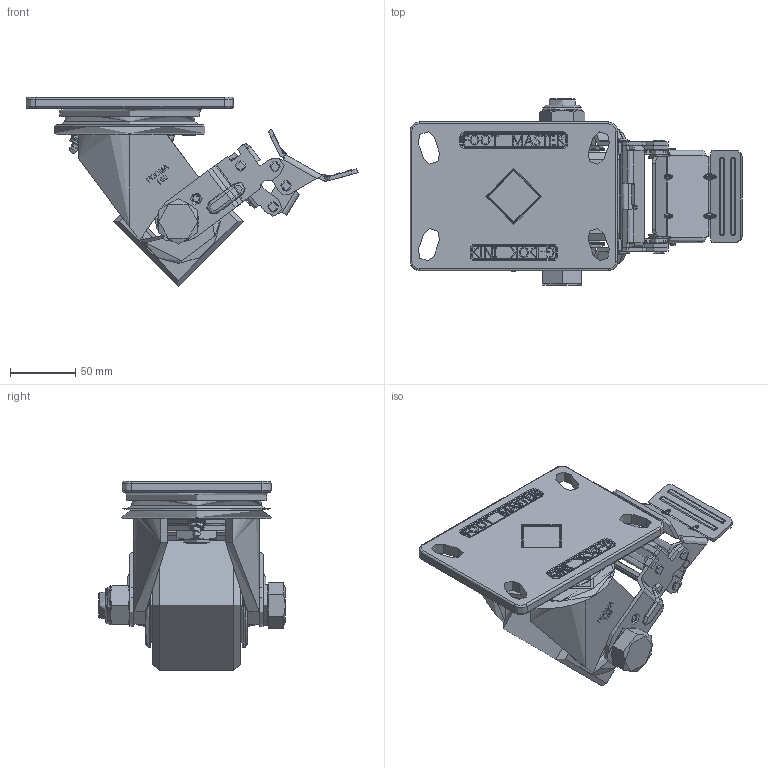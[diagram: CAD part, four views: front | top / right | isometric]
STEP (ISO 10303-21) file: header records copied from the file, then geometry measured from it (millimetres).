
FILE_DESCRIPTION(/* description */ (''),/* implementation_level */ '2;1');
FILE_NAME(/* name */ 'C:\Users\GR-DT-1-010\Desktop\GF-MCD\GF-100-MCD\step파일\GF-100-BSF-MCD.stp',/* time_stamp */ '2019-08-29T19:08:34+09:00',/* author */ ('GR-DT-1-010'),/* organization */ (''),/* preprocessor_version */ 'ST-DEVELOPER v16.13',/* originating_system */ 'Autodesk Inventor 2018',/* authorisation */ '');
FILE_SCHEMA (('AUTOMOTIVE_DESIGN { 1 0 10303 214 3 1 1 }'));
Length unit declared in the file: millimetre
Products named in the file (1): GF-100-BSF-MCD
Bounding box: 254.17 x 143 x 145 mm (x, y, z)
Topology: 10 solids, 18 shells, 1803 faces, 4616 edges, 2901 vertices
Faces by surface type: plane 628, bspline 529, cylinder 453, torus 122, cone 55, sphere 16
Full cylindrical faces by diameter (mm): 4 x4, 6 x5, 6.2 x18, 7 x2, 8 x8, 9.7 x2, 10 x2, 20 x5, 20.2 x2, 25 x2, 30 x1, 57 x2, 59 x1, 64.519 x2, 100 x1, 115 x1
Entity records: 63531 total; most frequent: CARTESIAN_POINT 23386, ORIENTED_EDGE 8840, DIRECTION 7234, EDGE_CURVE 4416, VERTEX_POINT 2840, AXIS2_PLACEMENT_3D 2524, LINE 2186, VECTOR 2186
